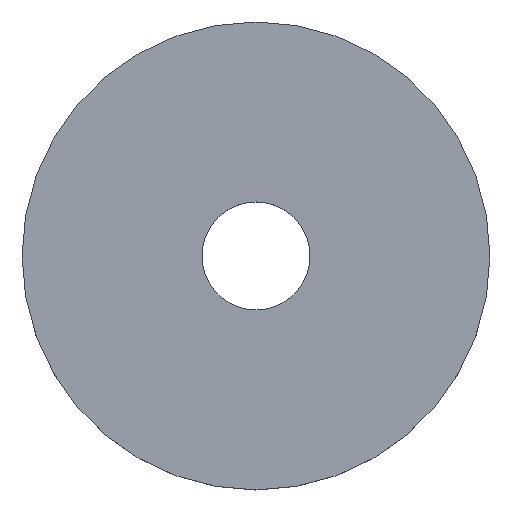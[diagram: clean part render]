
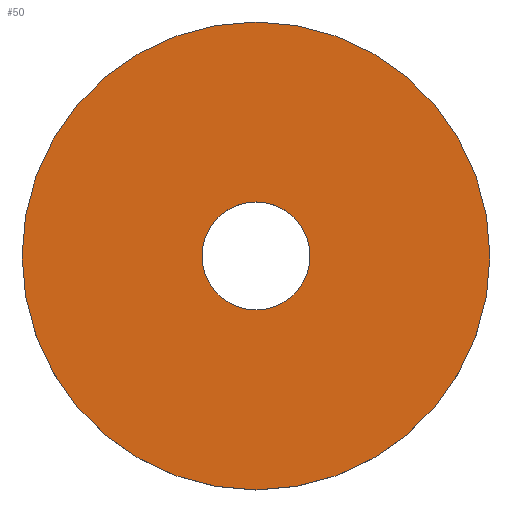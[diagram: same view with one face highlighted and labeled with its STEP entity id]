
A CAD part, top view. The second image highlights one B-rep face of the part: STEP entity #50.
In plain terms, the highlighted planar face has unit normal (0, 0, 1).
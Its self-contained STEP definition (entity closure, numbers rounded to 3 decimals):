
#21 = EDGE_CURVE('',#22,#22,#24,.T.);
#22 = VERTEX_POINT('',#23);
#23 = CARTESIAN_POINT('',(52.,0.,219.));
#24 = CIRCLE('',#25,52.);
#25 = AXIS2_PLACEMENT_3D('',#26,#27,#28);
#26 = CARTESIAN_POINT('',(0.,0.,219.));
#27 = DIRECTION('',(0.,0.,1.));
#28 = DIRECTION('',(1.,0.,-0.));
#50 = ADVANCED_FACE('',(#51,#54),#65,.T.);
#51 = FACE_BOUND('',#52,.T.);
#52 = EDGE_LOOP('',(#53));
#53 = ORIENTED_EDGE('',*,*,#21,.T.);
#54 = FACE_BOUND('',#55,.T.);
#55 = EDGE_LOOP('',(#56));
#56 = ORIENTED_EDGE('',*,*,#57,.F.);
#57 = EDGE_CURVE('',#58,#58,#60,.T.);
#58 = VERTEX_POINT('',#59);
#59 = CARTESIAN_POINT('',(12.,0.,219.));
#60 = CIRCLE('',#61,12.);
#61 = AXIS2_PLACEMENT_3D('',#62,#63,#64);
#62 = CARTESIAN_POINT('',(0.,0.,219.));
#63 = DIRECTION('',(0.,0.,1.));
#64 = DIRECTION('',(1.,0.,-0.));
#65 = PLANE('',#66);
#66 = AXIS2_PLACEMENT_3D('',#67,#68,#69);
#67 = CARTESIAN_POINT('',(0.,0.,219.));
#68 = DIRECTION('',(0.,0.,1.));
#69 = DIRECTION('',(1.,0.,-0.));
